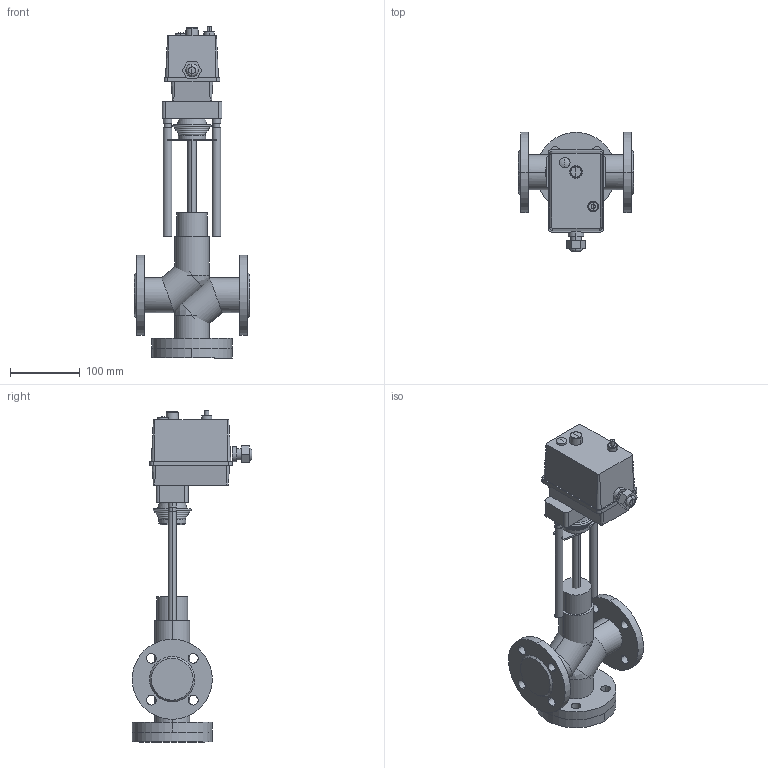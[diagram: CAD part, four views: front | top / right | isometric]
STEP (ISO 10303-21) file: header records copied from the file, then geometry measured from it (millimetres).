
FILE_DESCRIPTION(/* description */ (''),/* implementation_level */ '2;1');
FILE_NAME(/* name */ 'ТРК DN25 PN 1.6 МПа Regada ST MINI',/* time_stamp */ '2026-07-14T23:15:05+03:00',/* author */ (''),/* organization */ (''),/* preprocessor_version */ 'ST-DEVELOPER v20',/* originating_system */ '',/* authorisation */ '');
FILE_SCHEMA (('AP242_MANAGED_MODEL_BASED_3D_ENGINEERING_MIM_LF { 1 0 10303 442 1 1 4 }'));
Length unit declared in the file: millimetre
Products named in the file (14): TopLevelAssembly; Выдавливание; Модификатор; Модификатор_1; Выдавливание_
1; Выдавливание_
2; Вращение; Выдавливание_
3; Выдавливание_
4; Привод_Regada ST Mini; Переход; Объемная геометрия 
присоединена; Полый Выдавливание; Объемная геометрия 
присоединена_1
Assembly tree (13 placements, depth 2):
  TopLevelAssembly
    Выдавливание
    Модификатор
    Модификатор_1
    Выдавливание_
1
    Выдавливание_
2
    Вращение
    Выдавливание_
3
    Выдавливание_
4
    Привод_Regada ST Mini
    Переход
    Объемная геометрия 
присоединена
    Полый Выдавливание
    Объемная геометрия 
присоединена_1
Bounding box: 165 x 171.67 x 476 mm (x, y, z)
Volume: 2106565.6 mm3; surface area: 329194.2 mm2
Topology: 28 solids, 28 shells, 248 faces, 503 edges, 302 vertices
Faces by surface type: plane 122, cylinder 88, bspline 30, cone 8
Entity records: 7453 total; most frequent: CARTESIAN_POINT 1636, DIRECTION 1239, ORIENTED_EDGE 986, AXIS2_PLACEMENT_3D 501, EDGE_CURVE 493, VERTEX_POINT 302, EDGE_LOOP 278, FACE_OUTER_BOUND 248
